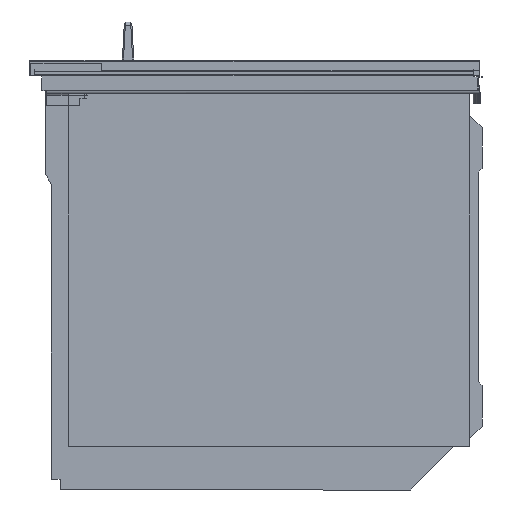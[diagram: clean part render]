
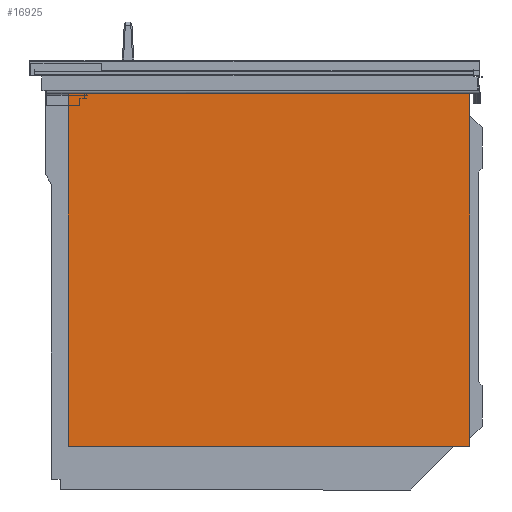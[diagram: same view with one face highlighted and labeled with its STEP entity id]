
A CAD part, left-side view. The second image highlights one B-rep face of the part: STEP entity #16925.
In plain terms, the highlighted planar face has unit normal (-1, 0, 0).
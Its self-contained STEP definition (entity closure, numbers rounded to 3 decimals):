
#104 = EDGE_CURVE ( 'NONE', #4932, #5307, #19347, .T. ) ;
#439 = CARTESIAN_POINT ( 'NONE',  ( -274.55, 19.793, 105.655 ) ) ;
#1043 = EDGE_CURVE ( 'NONE', #1298, #4932, #11189, .T. ) ;
#1298 = VERTEX_POINT ( 'NONE', #6664 ) ;
#1402 = DIRECTION ( 'NONE',  ( 0., 1., 0. ) ) ;
#1428 = DIRECTION ( 'NONE',  ( 0., 0., -1. ) ) ;
#1867 = EDGE_LOOP ( 'NONE', ( #2336, #12566, #11331, #19504 ) ) ;
#1999 = VECTOR ( 'NONE', #2871, 1000. ) ;
#2336 = ORIENTED_EDGE ( 'NONE', *, *, #104, .F. ) ;
#2871 = DIRECTION ( 'NONE',  ( 0., 0., -1. ) ) ;
#4932 = VERTEX_POINT ( 'NONE', #17453 ) ;
#5307 = VERTEX_POINT ( 'NONE', #15169 ) ;
#5703 = VERTEX_POINT ( 'NONE', #439 ) ;
#5737 = CARTESIAN_POINT ( 'NONE',  ( -274.55, 547.843, 569.743 ) ) ;
#5934 = LINE ( 'NONE', #20340, #14441 ) ;
#6664 = CARTESIAN_POINT ( 'NONE',  ( -274.55, 547.843, 105.655 ) ) ;
#7402 = VECTOR ( 'NONE', #18824, 1000. ) ;
#7616 = EDGE_CURVE ( 'NONE', #5307, #5703, #18823, .T. ) ;
#10922 = DIRECTION ( 'NONE',  ( 1., 0., 0. ) ) ;
#11189 = LINE ( 'NONE', #18894, #7402 ) ;
#11331 = ORIENTED_EDGE ( 'NONE', *, *, #12052, .F. ) ;
#12052 = EDGE_CURVE ( 'NONE', #5703, #1298, #5934, .T. ) ;
#12330 = FACE_OUTER_BOUND ( 'NONE', #1867, .T. ) ;
#12566 = ORIENTED_EDGE ( 'NONE', *, *, #1043, .F. ) ;
#14441 = VECTOR ( 'NONE', #1402, 1000. ) ;
#15169 = CARTESIAN_POINT ( 'NONE',  ( -274.55, 19.793, 569.743 ) ) ;
#16228 = AXIS2_PLACEMENT_3D ( 'NONE', #20363, #10922, #1428 ) ;
#16925 = ADVANCED_FACE ( 'NONE', ( #12330 ), #17124, .F. ) ;
#17124 = PLANE ( 'NONE',  #16228 ) ;
#17128 = CARTESIAN_POINT ( 'NONE',  ( -274.55, 19.793, 569.743 ) ) ;
#17453 = CARTESIAN_POINT ( 'NONE',  ( -274.55, 547.843, 569.743 ) ) ;
#18823 = LINE ( 'NONE', #17128, #1999 ) ;
#18824 = DIRECTION ( 'NONE',  ( 0., 0., 1. ) ) ;
#18849 = VECTOR ( 'NONE', #19929, 1000. ) ;
#18894 = CARTESIAN_POINT ( 'NONE',  ( -274.55, 547.843, 569.743 ) ) ;
#19347 = LINE ( 'NONE', #5737, #18849 ) ;
#19504 = ORIENTED_EDGE ( 'NONE', *, *, #7616, .F. ) ;
#19929 = DIRECTION ( 'NONE',  ( 0., -1., 0. ) ) ;
#20340 = CARTESIAN_POINT ( 'NONE',  ( -274.55, 20.293, 105.655 ) ) ;
#20363 = CARTESIAN_POINT ( 'NONE',  ( -274.55, 0., 0. ) ) ;
